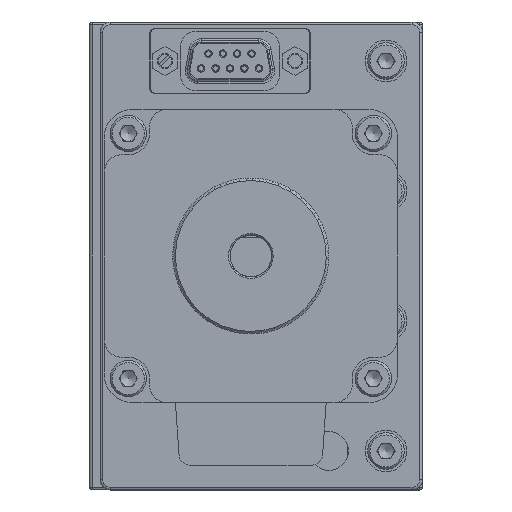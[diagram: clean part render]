
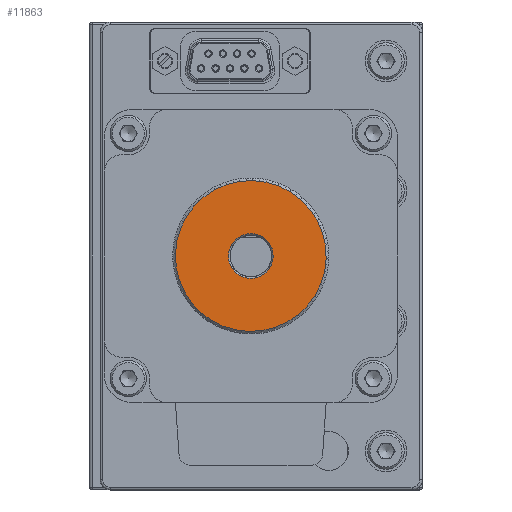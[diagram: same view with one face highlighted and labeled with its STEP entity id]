
A CAD part, left-side view. The second image highlights one B-rep face of the part: STEP entity #11863.
In plain terms, the highlighted planar face has unit normal (-1, 0, 0).
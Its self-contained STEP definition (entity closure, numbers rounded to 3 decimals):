
#4503 = CARTESIAN_POINT ( 'NONE',  ( -231.749, 19.015, 0. ) ) ;
#4505 = PLANE ( 'NONE',  #38077 ) ;
#4507 = DIRECTION ( 'NONE',  ( 1., 0., 0. ) ) ;
#4508 = DIRECTION ( 'NONE',  ( 0., -0.93, -0.368 ) ) ;
#7887 = FACE_BOUND ( 'NONE', #25013, .T. ) ;
#7893 = FACE_OUTER_BOUND ( 'NONE', #25018, .T. ) ;
#11863 = ADVANCED_FACE ( 'NONE', ( #7887, #7893 ), #4505, .F. ) ;
#17177 = CIRCLE ( 'NONE', #31965, 4.3 ) ;
#17182 = CIRCLE ( 'NONE', #31967, 14.5 ) ;
#18012 = VERTEX_POINT ( 'NONE', #22634 ) ;
#18014 = VERTEX_POINT ( 'NONE', #22636 ) ;
#22634 = CARTESIAN_POINT ( 'NONE',  ( -231.749, 15.018, -1.584 ) ) ;
#22636 = CARTESIAN_POINT ( 'NONE',  ( -231.749, 5.535, -5.341 ) ) ;
#25013 = EDGE_LOOP ( 'NONE', ( #37194 ) ) ;
#25018 = EDGE_LOOP ( 'NONE', ( #37193 ) ) ;
#28880 = CARTESIAN_POINT ( 'NONE',  ( -231.749, 19.015, 0. ) ) ;
#28881 = DIRECTION ( 'NONE',  ( 1., 0., 0. ) ) ;
#28882 = DIRECTION ( 'NONE',  ( 0., -0.93, -0.368 ) ) ;
#28887 = CARTESIAN_POINT ( 'NONE',  ( -231.749, 19.015, 0. ) ) ;
#28888 = DIRECTION ( 'NONE',  ( -1., 0., 0. ) ) ;
#28889 = DIRECTION ( 'NONE',  ( 0., -0.93, -0.368 ) ) ;
#31965 = AXIS2_PLACEMENT_3D ( 'NONE', #28880, #28881, #28882 ) ;
#31967 = AXIS2_PLACEMENT_3D ( 'NONE', #28887, #28888, #28889 ) ;
#34665 = EDGE_CURVE ( 'NONE', #18012, #18012, #17177, .T. ) ;
#34667 = EDGE_CURVE ( 'NONE', #18014, #18014, #17182, .T. ) ;
#37193 = ORIENTED_EDGE ( 'NONE', *, *, #34667, .T. ) ;
#37194 = ORIENTED_EDGE ( 'NONE', *, *, #34665, .T. ) ;
#38077 = AXIS2_PLACEMENT_3D ( 'NONE', #4503, #4507, #4508 ) ;
